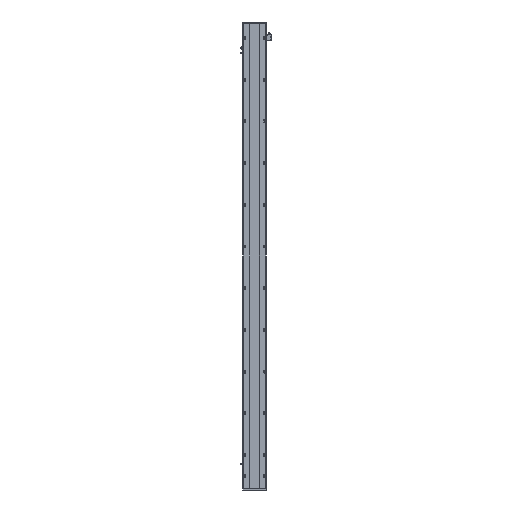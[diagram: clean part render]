
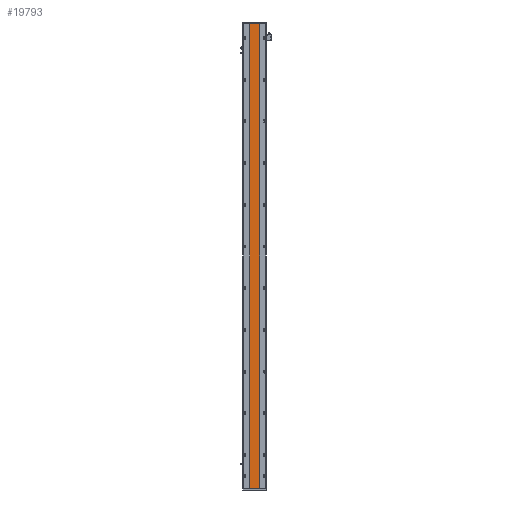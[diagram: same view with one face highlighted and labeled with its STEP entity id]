
A CAD part, front view. The second image highlights one B-rep face of the part: STEP entity #19793.
In plain terms, the highlighted planar face has unit normal (0, -1, 0).
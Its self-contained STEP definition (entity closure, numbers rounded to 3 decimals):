
#480 = DIRECTION ( 'NONE',  ( 1., 0., 0. ) ) ;
#2625 = VECTOR ( 'NONE', #480, 1000. ) ;
#2664 = EDGE_CURVE ( 'NONE', #29153, #3310, #14009, .T. ) ;
#2904 = CARTESIAN_POINT ( 'NONE',  ( 0., 115.96, 2404. ) ) ;
#3310 = VERTEX_POINT ( 'NONE', #23657 ) ;
#3444 = DIRECTION ( 'NONE',  ( 0., 0., -1. ) ) ;
#3851 = AXIS2_PLACEMENT_3D ( 'NONE', #23790, #16483, #26624 ) ;
#6979 = VERTEX_POINT ( 'NONE', #9815 ) ;
#7740 = VECTOR ( 'NONE', #3444, 1000. ) ;
#8177 = CARTESIAN_POINT ( 'NONE',  ( 133.07, 115.96, 2404. ) ) ;
#8349 = DIRECTION ( 'NONE',  ( 1., 0., 0. ) ) ;
#8617 = LINE ( 'NONE', #10148, #27776 ) ;
#9424 = EDGE_CURVE ( 'NONE', #6979, #19330, #24870, .T. ) ;
#9641 = CARTESIAN_POINT ( 'NONE',  ( 183.063, 115.96, 0. ) ) ;
#9815 = CARTESIAN_POINT ( 'NONE',  ( 133.07, 115.96, 0. ) ) ;
#10148 = CARTESIAN_POINT ( 'NONE',  ( 183.063, 115.96, 2404. ) ) ;
#14009 = LINE ( 'NONE', #2904, #2625 ) ;
#16483 = DIRECTION ( 'NONE',  ( 0., 1., 0. ) ) ;
#18283 = EDGE_LOOP ( 'NONE', ( #22042, #24719, #20198, #27581 ) ) ;
#19330 = VERTEX_POINT ( 'NONE', #9641 ) ;
#19402 = VECTOR ( 'NONE', #8349, 1000. ) ;
#19793 = ADVANCED_FACE ( 'NONE', ( #20296 ), #24228, .F. ) ;
#20198 = ORIENTED_EDGE ( 'NONE', *, *, #2664, .F. ) ;
#20238 = CARTESIAN_POINT ( 'NONE',  ( 133.07, 115.96, 2404. ) ) ;
#20296 = FACE_OUTER_BOUND ( 'NONE', #18283, .T. ) ;
#20524 = DIRECTION ( 'NONE',  ( 0., 0., -1. ) ) ;
#20628 = LINE ( 'NONE', #8177, #7740 ) ;
#22042 = ORIENTED_EDGE ( 'NONE', *, *, #9424, .T. ) ;
#23657 = CARTESIAN_POINT ( 'NONE',  ( 183.063, 115.96, 2404. ) ) ;
#23790 = CARTESIAN_POINT ( 'NONE',  ( 0., 115.96, 2404. ) ) ;
#23945 = EDGE_CURVE ( 'NONE', #29153, #6979, #20628, .T. ) ;
#24228 = PLANE ( 'NONE',  #3851 ) ;
#24719 = ORIENTED_EDGE ( 'NONE', *, *, #30918, .F. ) ;
#24870 = LINE ( 'NONE', #26149, #19402 ) ;
#26149 = CARTESIAN_POINT ( 'NONE',  ( 0., 115.96, 0. ) ) ;
#26624 = DIRECTION ( 'NONE',  ( -1., 0., 0. ) ) ;
#27581 = ORIENTED_EDGE ( 'NONE', *, *, #23945, .T. ) ;
#27776 = VECTOR ( 'NONE', #20524, 1000. ) ;
#29153 = VERTEX_POINT ( 'NONE', #20238 ) ;
#30918 = EDGE_CURVE ( 'NONE', #3310, #19330, #8617, .T. ) ;
